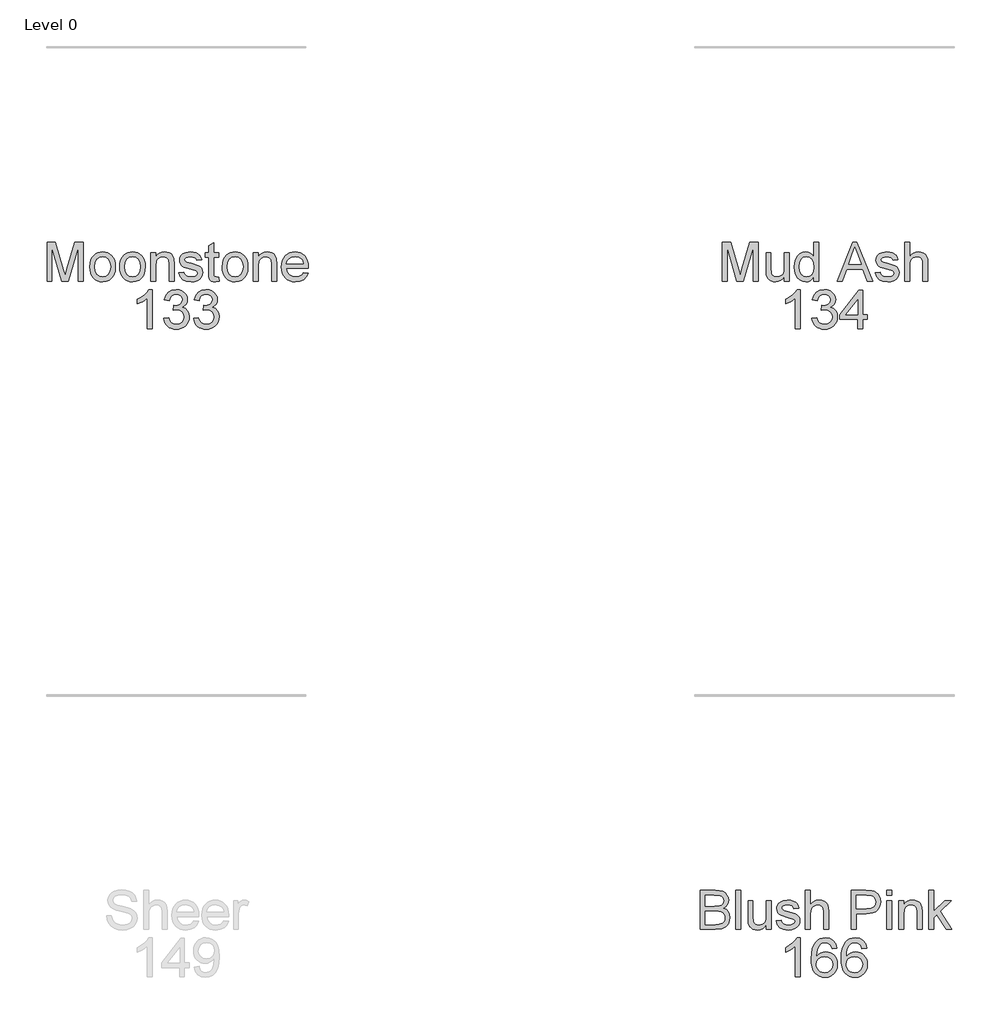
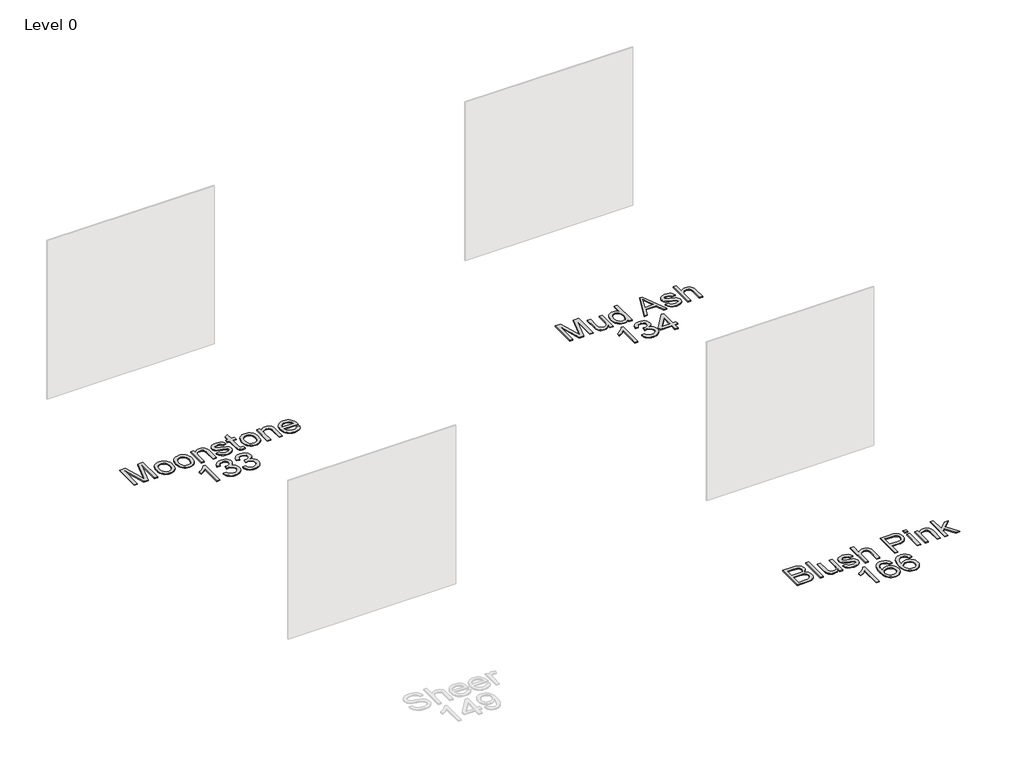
# One storey, part 5 of 15: 3 proxies.
"""IFC4 building model written with IfcOpenShell, lengths in millimetres."""

from ifc_helpers import new_model, si_unit, origin, origin_with_axes, place, context, project, spatial, polyline, outline, extrude, element, save

model = new_model("IFC4")

# Units and contexts
model_context = context("Model", 3, world=origin())
ifc_project = project(units=[si_unit("LENGTHUNIT", "METRE", prefix="MILLI")], contexts=[model_context])

# Site, building, storey
site = spatial("IfcSite", under=ifc_project)
building = spatial("IfcBuilding", under=site)
storey = spatial("IfcBuildingStorey", under=building, Name="Level 0", Elevation=0.0)

# Proxies
placement = place(None, origin())
element("IfcBuildingElementProxy", 1, Name="300mm Arial", ObjectType="300mm Arial", at=placement, inside=storey, context=model_context, shape_type="SweptSolid", body=[
    extrude(outline(polyline([(-10446.5881937, -12002.860494), (-10446.5881937, -11701.4915635), (-10381.7673861, -11701.4915635), (-10320.1103637, -11913.9066275), (-10307.6759523, -11958.2731962), (-10294.2114712, -11910.2278076), (-10233.5845184, -11701.4915635), (-10168.7637109, -11701.4915635), (-10168.7637109, -12002.860494), (-10206.4348272, -12002.860494), (-10206.4348272, -11739.1626798), (-10282.1449418, -12002.860494), (-10333.2069627, -12002.860494), (-10408.9170773, -11739.1626798), (-10408.9170773, -12002.860494), (-10446.5881937, -12002.860494)])), origin_with_axes(), (0.0, 0.0, 1.0), 10.0),
    extrude(outline(polyline([(-10116.965926, -11892.2015898), (-10114.9287794, -11863.5389839), (-10108.8173398, -11838.8403064), (-10098.631607, -11818.1055575), (-10084.3715812, -11801.334737), (-10070.0149863, -11790.6155754), (-10054.1684694, -11782.9590314), (-10036.8320304, -11778.3651049), (-10018.0056693, -11776.8337961), (-9997.2226358, -11778.698498), (-9978.4307636, -11784.2926036), (-9961.6300528, -11793.6161129), (-9946.8205032, -11806.669026), (-9934.7332804, -11823.0098843), (-9926.0995498, -11842.1972296), (-9920.9193115, -11864.2310619), (-9919.1925654, -11889.1113811), (-9922.2459859, -11927.1687735), (-9931.4062476, -11956.1394806), (-9946.406636, -11977.8353213), (-9966.9804365, -11994.0681143), (-9991.4169981, -12004.1940662), (-10018.0056693, -12007.5693835), (-10039.0922054, -12005.7115794), (-10058.0588215, -12000.1381672), (-10074.9055176, -11990.8491468), (-10089.6322937, -11977.8445183), (-10101.5907578, -11961.3450108), (-10110.1325179, -11941.5713536), (-10115.257574, -11918.5235466), (-10116.965926, -11892.2015898)]), holes=[polyline([(-10079.2948097, -11892.1280134), (-10074.935408, -11926.2214773), (-10061.8572031, -11950.5108861), (-10042.1755164, -11965.0514219), (-10018.0056693, -11969.8982672), (-9993.9461868, -11965.0238308), (-9974.3012882, -11950.4005215), (-9961.2230833, -11925.789216), (-9956.8636817, -11890.950791), (-9961.2506745, -11857.8506085), (-9974.4116528, -11833.8922936), (-9994.0841425, -11819.3517577), (-10018.0056693, -11814.5049125), (-10042.1755164, -11819.3333636), (-10061.8572031, -11833.8187172), (-10074.935408, -11858.0529436), (-10079.2948097, -11892.1280134)])]), origin_with_axes(), (0.0, 0.0, 1.0), 10.0),
    extrude(outline(polyline([(-9886.2303386, -11892.2015898), (-9884.193192, -11863.5389839), (-9878.0817524, -11838.8403064), (-9867.8960197, -11818.1055575), (-9853.6359938, -11801.334737), (-9839.279399, -11790.6155754), (-9823.432882, -11782.9590314), (-9806.096443, -11778.3651049), (-9787.2700819, -11776.8337961), (-9766.4870484, -11778.698498), (-9747.6951763, -11784.2926036), (-9730.8944654, -11793.6161129), (-9716.0849158, -11806.669026), (-9703.997693, -11823.0098843), (-9695.3639624, -11842.1972296), (-9690.1837241, -11864.2310619), (-9688.456978, -11889.1113811), (-9691.5103985, -11927.1687735), (-9700.6706602, -11956.1394806), (-9715.6710486, -11977.8353213), (-9736.2448492, -11994.0681143), (-9760.6814107, -12004.1940662), (-9787.2700819, -12007.5693835), (-9808.356618, -12005.7115794), (-9827.3232341, -12000.1381672), (-9844.1699302, -11990.8491468), (-9858.8967064, -11977.8445183), (-9870.8551705, -11961.3450108), (-9879.3969305, -11941.5713536), (-9884.5219866, -11918.5235466), (-9886.2303386, -11892.2015898)]), holes=[polyline([(-9848.5592223, -11892.1280134), (-9844.1998206, -11926.2214773), (-9831.1216157, -11950.5108861), (-9811.439929, -11965.0514219), (-9787.2700819, -11969.8982672), (-9763.2105994, -11965.0238308), (-9743.5657009, -11950.4005215), (-9730.4874959, -11925.789216), (-9726.1280943, -11890.950791), (-9730.5150871, -11857.8506085), (-9743.6760655, -11833.8922936), (-9763.3485552, -11819.3517577), (-9787.2700819, -11814.5049125), (-9811.439929, -11819.3333636), (-9831.1216157, -11833.8187172), (-9844.1998206, -11858.0529436), (-9848.5592223, -11892.1280134)])]), origin_with_axes(), (0.0, 0.0, 1.0), 10.0),
    extrude(outline(polyline([(-9646.0769721, -12002.860494), (-9646.0769721, -11781.5426857), (-9608.4058558, -11781.5426857), (-9608.4058558, -11812.4447733), (-9595.3184539, -11796.8649708), (-9579.6006956, -11785.7365404), (-9561.2525811, -11779.0594822), (-9540.2741103, -11776.8337961), (-9521.7052666, -11778.6272209), (-9504.6999214, -11784.0074951), (-9490.5180705, -11792.303234), (-9480.4197097, -11802.8430532), (-9469.1257325, -11830.5445674), (-9467.1391697, -11866.964885), (-9467.1391697, -12002.860494), (-9504.810286, -12002.860494), (-9504.810286, -11872.0416565), (-9509.1512935, -11838.7115477), (-9515.1569671, -11828.7879309), (-9524.4919727, -11821.0900002), (-9536.4573346, -11816.1511844), (-9550.354077, -11814.5049125), (-9572.4177997, -11818.2021265), (-9591.2257667, -11829.2937687), (-9598.7420557, -11838.3482643), (-9604.1108335, -11850.7228949), (-9608.4058558, -11885.4325611), (-9608.4058558, -12002.860494), (-9646.0769721, -12002.860494)])), origin_with_axes(), (0.0, 0.0, 1.0), 10.0),
    extrude(outline(polyline([(-9429.4680534, -11936.9360404), (-9391.7969371, -11932.2271509), (-9385.8556429, -11948.3403823), (-9374.3593305, -11960.1861825), (-9357.2344236, -11967.470246), (-9334.4073458, -11969.8982672), (-9311.8561795, -11967.6725811), (-9296.0004655, -11960.9955229), (-9286.6194747, -11951.3202265), (-9283.4924777, -11940.0998256), (-9286.6378688, -11930.4981055), (-9296.0740419, -11923.1772538), (-9334.8488042, -11912.4350996), (-9391.5762079, -11894.0042116), (-9405.9328027, -11884.7427824), (-9416.3346662, -11872.4831149), (-9422.6530394, -11858.0069584), (-9424.7591638, -11842.0960621), (-9423.0669067, -11827.5003439), (-9417.9901351, -11814.0266659), (-9409.9887017, -11802.2084568), (-9399.522459, -11792.5791455), (-9375.5733411, -11781.4323211), (-9343.1629373, -11776.8337961), (-9318.6436023, -11778.6824032), (-9297.3248407, -11784.2282242), (-9280.1815397, -11792.9286334), (-9268.1885867, -11804.2410048), (-9260.2423356, -11819.0022698), (-9255.2391405, -11838.0493601), (-9292.9102568, -11842.7582497), (-9297.6651316, -11830.9032524), (-9307.0737136, -11821.972917), (-9321.2279734, -11816.3719136), (-9340.2198814, -11814.5049125), (-9361.8513427, -11816.2891401), (-9376.2723169, -11821.6418232), (-9384.3841149, -11829.3673451), (-9387.0880475, -11838.2700893), (-9382.5998872, -11849.2329728), (-9368.546795, -11857.5471059), (-9336.099603, -11865.5669334), (-9280.8069391, -11883.2988455), (-9266.2020239, -11891.7785255), (-9255.1287759, -11903.3852025), (-9248.148215, -11918.1556646), (-9245.8213614, -11936.1267001), (-9248.5528852, -11954.7047408), (-9256.7474566, -11972.1791356), (-9270.092376, -11987.1795239), (-9288.2749436, -11998.3355454), (-9310.2374987, -12005.260924), (-9334.9223806, -12007.5693835), (-9372.9061966, -12003.1180114), (-9400.626105, -11989.763895), (-9419.1305693, -11967.654187), (-9429.4680534, -11936.9360404)])), origin_with_axes(), (0.0, 0.0, 1.0), 10.0),
    extrude(outline(polyline([(-9123.3902334, -11971.4433716), (-9118.6813439, -12003.96414), (-9146.8611047, -12007.5693835), (-9164.9425048, -12006.005885), (-9178.4253799, -12001.3153896), (-9187.9535236, -11994.0865084), (-9194.1707293, -11984.9078526), (-9197.5920318, -11969.1441091), (-9198.732466, -11942.1599648), (-9198.732466, -11819.213802), (-9226.9858032, -11819.213802), (-9226.9858032, -11781.5426857), (-9198.732466, -11781.5426857), (-9198.732466, -11727.758338), (-9161.0613497, -11705.6118419), (-9161.0613497, -11781.5426857), (-9123.3902334, -11781.5426857), (-9123.3902334, -11819.213802), (-9161.0613497, -11819.213802), (-9161.0613497, -11941.0563188), (-9159.0747869, -11960.4804881), (-9152.636852, -11967.3598814), (-9139.7977704, -11969.8982672), (-9123.3902334, -11971.4433716)])), origin_with_axes(), (0.0, 0.0, 1.0), 10.0),
    extrude(outline(polyline([(-9095.1368962, -11892.2015898), (-9093.0997496, -11863.5389839), (-9086.98831, -11838.8403064), (-9076.8025772, -11818.1055575), (-9062.5425514, -11801.334737), (-9048.1859565, -11790.6155754), (-9032.3394396, -11782.9590314), (-9015.0030006, -11778.3651049), (-8996.1766395, -11776.8337961), (-8975.393606, -11778.698498), (-8956.6017338, -11784.2926036), (-8939.801023, -11793.6161129), (-8924.9914734, -11806.669026), (-8912.9042506, -11823.0098843), (-8904.27052, -11842.1972296), (-8899.0902817, -11864.2310619), (-8897.3635356, -11889.1113811), (-8900.4169561, -11927.1687735), (-8909.5772178, -11956.1394806), (-8924.5776062, -11977.8353213), (-8945.1514067, -11994.0681143), (-8969.5879683, -12004.1940662), (-8996.1766395, -12007.5693835), (-9017.2631756, -12005.7115794), (-9036.2297917, -12000.1381672), (-9053.0764878, -11990.8491468), (-9067.8032639, -11977.8445183), (-9079.761728, -11961.3450108), (-9088.3034881, -11941.5713536), (-9093.4285442, -11918.5235466), (-9095.1368962, -11892.2015898)]), holes=[polyline([(-9057.4657799, -11892.1280134), (-9053.1063782, -11926.2214773), (-9040.0281733, -11950.5108861), (-9020.3464865, -11965.0514219), (-8996.1766395, -11969.8982672), (-8972.117157, -11965.0238308), (-8952.4722584, -11950.4005215), (-8939.3940535, -11925.789216), (-8935.0346519, -11890.950791), (-8939.4216447, -11857.8506085), (-8952.582623, -11833.8922936), (-8972.2551127, -11819.3517577), (-8996.1766395, -11814.5049125), (-9020.3464865, -11819.3333636), (-9040.0281733, -11833.8187172), (-9053.1063782, -11858.0529436), (-9057.4657799, -11892.1280134)])]), origin_with_axes(), (0.0, 0.0, 1.0), 10.0),
    extrude(outline(polyline([(-8854.9835297, -12002.860494), (-8854.9835297, -11781.5426857), (-8817.3124134, -11781.5426857), (-8817.3124134, -11812.4447733), (-8804.2250114, -11796.8649708), (-8788.5072532, -11785.7365404), (-8770.1591387, -11779.0594822), (-8749.1806679, -11776.8337961), (-8730.6118242, -11778.6272209), (-8713.606479, -11784.0074951), (-8699.4246281, -11792.303234), (-8689.3262673, -11802.8430532), (-8678.03229, -11830.5445674), (-8676.0457273, -11866.964885), (-8676.0457273, -12002.860494), (-8713.7168436, -12002.860494), (-8713.7168436, -11872.0416565), (-8718.0578511, -11838.7115477), (-8724.0635247, -11828.7879309), (-8733.3985303, -11821.0900002), (-8745.3638922, -11816.1511844), (-8759.2606346, -11814.5049125), (-8781.3243572, -11818.2021265), (-8800.1323242, -11829.2937687), (-8807.6486133, -11838.3482643), (-8813.0173911, -11850.7228949), (-8817.3124134, -11885.4325611), (-8817.3124134, -12002.860494), (-8854.9835297, -12002.860494)])), origin_with_axes(), (0.0, 0.0, 1.0), 10.0),
    extrude(outline(polyline([(-8469.296046, -11936.9360404), (-8432.3606937, -11941.64493), (-8445.6688248, -11969.4752029), (-8466.904813, -11990.2789297), (-8495.5904116, -12003.2467701), (-8531.247374, -12007.5693835), (-8554.6216762, -12005.7046817), (-8575.4483957, -12000.1105761), (-8593.7275323, -11990.7870668), (-8609.4590861, -11977.7341537), (-8622.1096282, -11961.3151204), (-8631.1457298, -11941.8932503), (-8636.5673907, -11919.4685435), (-8638.374611, -11894.0409998), (-8636.5489966, -11867.7512327), (-8631.0721534, -11844.5792656), (-8621.9440813, -11824.5250983), (-8609.1647805, -11807.5887309), (-8593.4746134, -11794.133447), (-8575.6139426, -11784.5225298), (-8555.5827679, -11778.7559796), (-8533.3810895, -11776.8337961), (-8511.8944818, -11778.751381), (-8492.4634146, -11784.5041357), (-8475.0878881, -11794.0920602), (-8459.7679023, -11807.5151545), (-8447.2622137, -11824.4147337), (-8438.329579, -11844.4321128), (-8432.9699982, -11867.5672917), (-8431.1834713, -11893.8202706), (-8431.4042005, -11903.9738137), (-8600.7034947, -11903.9738137), (-8594.1827863, -11932.1719686), (-8579.0352451, -11952.902119), (-8557.1738576, -11965.6492302), (-8530.51161, -11969.8982672), (-8510.4620412, -11967.9300985), (-8493.5762577, -11962.0255925), (-8479.8542592, -11951.8168672), (-8469.296046, -11936.9360404)]), holes=[polyline([(-8600.7034947, -11866.3026974), (-8468.8545876, -11866.3026974), (-8473.9497532, -11846.4002814), (-8483.9377494, -11832.1632482), (-8505.9003045, -11818.9194964), (-8533.5282423, -11814.5049125), (-8558.921297, -11818.0273826), (-8579.9181619, -11828.5947929), (-8594.5138801, -11845.0667092), (-8600.7034947, -11866.3026974)])]), origin_with_axes(), (0.0, 0.0, 1.0), 10.0),
    extrude(outline(polyline([(-9636.6591931, -12368.7849475), (-9674.3303094, -12368.7849475), (-9674.3303094, -12133.9290818), (-9710.0148629, -12159.3497277), (-9749.672542, -12178.3692268), (-9749.672542, -12142.7582497), (-9720.0856325, -12126.6634124), (-9694.4534545, -12107.5151545), (-9674.2475359, -12087.1528861), (-9660.9394048, -12067.4160171), (-9636.6591931, -12067.4160171), (-9636.6591931, -12368.7849475)])), origin_with_axes(), (0.0, 0.0, 1.0), 10.0),
    extrude(outline(polyline([(-9547.1902918, -12288.7338254), (-9509.5191755, -12284.0249358), (-9501.0854808, -12307.6981422), (-9488.7338428, -12323.6826149), (-9471.8572563, -12332.7876943), (-9449.8487159, -12335.8227207), (-9424.0233999, -12331.6472601), (-9404.0841957, -12319.1208782), (-9391.3370846, -12300.4324728), (-9387.0880475, -12277.7709419), (-9391.3002964, -12256.2590422), (-9403.9370429, -12238.8122386), (-9423.0669067, -12227.2515469), (-9446.7585072, -12223.397983), (-9473.1724344, -12227.5182614), (-9468.9785797, -12189.8471451), (-9462.9453149, -12190.2886035), (-9440.3757545, -12187.5846708), (-9420.1974271, -12179.4728728), (-9405.9603939, -12165.7508744), (-9401.2147162, -12146.2163404), (-9404.6544128, -12129.9467592), (-9414.9735028, -12116.7489926), (-9430.7188522, -12108.0025982), (-9450.4373271, -12105.0871334), (-9470.1925903, -12108.0301893), (-9486.3426098, -12116.8593572), (-9498.1332278, -12131.574637), (-9504.810286, -12152.1760288), (-9542.4814023, -12147.4671392), (-9531.3897601, -12113.6403898), (-9511.6528911, -12088.3852908), (-9484.6503527, -12072.6583355), (-9451.7617023, -12067.4160171), (-9428.0792989, -12070.0003881), (-9406.3282759, -12077.7535011), (-9387.9893584, -12089.9855775), (-9374.5432715, -12106.0068384), (-9366.2935178, -12124.4653175), (-9363.5435998, -12144.0090485), (-9366.155562, -12162.2192072), (-9373.9914485, -12178.7371088), (-9386.9408947, -12192.8085951), (-9404.8935361, -12203.6795081), (-9381.3123002, -12213.2076518), (-9363.8379054, -12229.4312477), (-9353.0221748, -12251.4673793), (-9349.4169312, -12278.4331295), (-9351.219553, -12297.5445992), (-9356.6274183, -12315.1477526), (-9365.6405272, -12331.2425899), (-9378.2588797, -12345.829111), (-9393.6317485, -12357.9324287), (-9410.9084067, -12366.5776555), (-9430.0888543, -12371.7647917), (-9451.1730911, -12373.4938371), (-9470.2293785, -12372.0177105), (-9487.5934086, -12367.589331), (-9503.2651816, -12360.2086985), (-9517.2446974, -12349.875813), (-9528.9663375, -12337.1976797), (-9537.8644833, -12322.781304), (-9543.9391347, -12306.6266859), (-9547.1902918, -12288.7338254)])), origin_with_axes(), (0.0, 0.0, 1.0), 10.0),
    extrude(outline(polyline([(-9316.4547045, -12288.7338254), (-9278.7835882, -12284.0249358), (-9270.3498934, -12307.6981422), (-9257.9982554, -12323.6826149), (-9241.1216689, -12332.7876943), (-9219.1131285, -12335.8227207), (-9193.2878125, -12331.6472601), (-9173.3486083, -12319.1208782), (-9160.6014972, -12300.4324728), (-9156.3524602, -12277.7709419), (-9160.564709, -12256.2590422), (-9173.2014555, -12238.8122386), (-9192.3313193, -12227.2515469), (-9216.0229198, -12223.397983), (-9242.436847, -12227.5182614), (-9238.2429923, -12189.8471451), (-9232.2097276, -12190.2886035), (-9209.6401672, -12187.5846708), (-9189.4618397, -12179.4728728), (-9175.2248065, -12165.7508744), (-9170.4791288, -12146.2163404), (-9173.9188254, -12129.9467592), (-9184.2379154, -12116.7489926), (-9199.9832648, -12108.0025982), (-9219.7017397, -12105.0871334), (-9239.4570029, -12108.0301893), (-9255.6070225, -12116.8593572), (-9267.3976404, -12131.574637), (-9274.0746986, -12152.1760288), (-9311.7458149, -12147.4671392), (-9300.6541728, -12113.6403898), (-9280.9173037, -12088.3852908), (-9253.9147653, -12072.6583355), (-9221.0261149, -12067.4160171), (-9197.3437115, -12070.0003881), (-9175.5926885, -12077.7535011), (-9157.2537711, -12089.9855775), (-9143.8076841, -12106.0068384), (-9135.5579304, -12124.4653175), (-9132.8080125, -12144.0090485), (-9135.4199746, -12162.2192072), (-9143.2558611, -12178.7371088), (-9156.2053074, -12192.8085951), (-9174.1579487, -12203.6795081), (-9150.5767128, -12213.2076518), (-9133.1023181, -12229.4312477), (-9122.2865874, -12251.4673793), (-9118.6813439, -12278.4331295), (-9120.4839656, -12297.5445992), (-9125.891831, -12315.1477526), (-9134.9049398, -12331.2425899), (-9147.5232923, -12345.829111), (-9162.8961612, -12357.9324287), (-9180.1728194, -12366.5776555), (-9199.3532669, -12371.7647917), (-9220.4375037, -12373.4938371), (-9239.4937911, -12372.0177105), (-9256.8578212, -12367.589331), (-9272.5295942, -12360.2086985), (-9286.5091101, -12349.875813), (-9298.2307501, -12337.1976797), (-9307.1288959, -12322.781304), (-9313.2035473, -12306.6266859), (-9316.4547045, -12288.7338254)])), origin_with_axes(), (0.0, 0.0, 1.0), 10.0),
])
element("IfcBuildingElementProxy", 2, Name="300mm Arial", ObjectType="300mm Arial", at=placement, inside=storey, context=model_context, shape_type="SweptSolid", body=[
    extrude(outline(polyline([(-5239.397054, -12002.860494), (-5239.397054, -11701.4915635), (-5174.5762464, -11701.4915635), (-5112.919224, -11913.9066275), (-5100.4848126, -11958.2731962), (-5087.0203316, -11910.2278076), (-5026.3933788, -11701.4915635), (-4961.5725712, -11701.4915635), (-4961.5725712, -12002.860494), (-4999.2436875, -12002.860494), (-4999.2436875, -11739.1626798), (-5074.9538021, -12002.860494), (-5126.0158231, -12002.860494), (-5201.7259377, -11739.1626798), (-5201.7259377, -12002.860494), (-5239.397054, -12002.860494)])), origin_with_axes(), (0.0, 0.0, 1.0), 10.0),
    extrude(outline(polyline([(-4759.0903211, -12002.860494), (-4759.0903211, -11964.8214957), (-4772.720349, -11983.5236966), (-4788.5944571, -11996.8824116), (-4806.7126453, -12004.8976405), (-4827.0749138, -12007.5693835), (-4845.4230283, -12005.6931853), (-4862.5019499, -12000.0645908), (-4876.8309536, -11991.6033049), (-4886.9293144, -11981.2290327), (-4898.1497152, -11953.4907302), (-4900.3570072, -11918.4683643), (-4900.3570072, -11781.5426857), (-4862.6858909, -11781.5426857), (-4862.6858909, -11900.7364521), (-4860.4050225, -11939.1433324), (-4854.9143838, -11951.9548229), (-4845.5058017, -11961.6944987), (-4832.8046758, -11967.8473251), (-4817.4364055, -11969.8982672), (-4801.1852184, -11967.8013398), (-4785.9824949, -11961.5105577), (-4773.4469159, -11951.605335), (-4765.1971622, -11938.6650858), (-4760.6170313, -11920.9423707), (-4759.0903211, -11896.6897502), (-4759.0903211, -11781.5426857), (-4721.4192048, -11781.5426857), (-4721.4192048, -12002.860494), (-4759.0903211, -12002.860494)])), origin_with_axes(), (0.0, 0.0, 1.0), 10.0),
    extrude(outline(polyline([(-4533.0636232, -12002.860494), (-4533.0636232, -11967.3230932), (-4544.3346079, -11984.9308452), (-4557.9876284, -11997.507811), (-4574.0226849, -12005.0539904), (-4592.4397772, -12007.5693835), (-4616.7935653, -12003.9273518), (-4639.0872142, -11993.0012565), (-4657.9595606, -11975.5544529), (-4672.049441, -11952.350296), (-4680.8234266, -11924.3268851), (-4683.7480885, -11892.422319), (-4681.0533528, -11860.9132261), (-4672.969146, -11832.4575538), (-4659.504665, -11808.6739828), (-4640.6691068, -11791.181194), (-4617.8880143, -11780.4206456), (-4592.58693, -11776.8337961), (-4574.1560421, -11779.3997731), (-4557.8588697, -11787.0977038), (-4544.0449008, -11798.8975188), (-4533.0636232, -11813.7691485), (-4533.0636232, -11701.4915635), (-4495.3925069, -11701.4915635), (-4495.3925069, -12002.860494), (-4533.0636232, -12002.860494)]), holes=[polyline([(-4646.0769721, -11892.2751662), (-4641.8279351, -11926.350236), (-4629.080824, -11950.5844625), (-4610.5579655, -11965.069816), (-4588.9816865, -11969.8982672), (-4567.4146045, -11965.2905452), (-4549.3607956, -11951.4673793), (-4537.1379163, -11928.1712519), (-4533.0636232, -11895.1446458), (-4537.2114927, -11859.037028), (-4549.6551012, -11834.0026582), (-4568.1687626, -11819.3793489), (-4590.5267909, -11814.5049125), (-4612.3237991, -11819.1862108), (-4630.18447, -11833.230106), (-4642.1038466, -11857.3539678), (-4646.0769721, -11892.2751662)])]), origin_with_axes(), (0.0, 0.0, 1.0), 10.0),
    extrude(outline(polyline([(-4351.5506468, -12002.860494), (-4231.2532344, -11701.4915635), (-4199.1739244, -11701.4915635), (-4078.876512, -12002.860494), (-4118.6813439, -12002.860494), (-4153.188675, -11908.6827032), (-4277.3120602, -11908.6827032), (-4311.7458149, -12002.860494), (-4351.5506468, -12002.860494)]), holes=[polyline([(-4263.4796972, -11871.0115869), (-4166.9474616, -11871.0115869), (-4194.0971529, -11796.9201531), (-4215.2135794, -11739.1626798), (-4233.9755611, -11790.44543), (-4263.4796972, -11871.0115869)])]), origin_with_axes(), (0.0, 0.0, 1.0), 10.0),
    extrude(outline(polyline([(-4057.4657799, -11936.9360404), (-4019.7946636, -11932.2271509), (-4013.8533693, -11948.3403823), (-4002.357057, -11960.1861825), (-3985.2321501, -11967.470246), (-3962.4050723, -11969.8982672), (-3939.853906, -11967.6725811), (-3923.998192, -11960.9955229), (-3914.6172011, -11951.3202265), (-3911.4902042, -11940.0998256), (-3914.6355952, -11930.4981055), (-3924.0717684, -11923.1772538), (-3962.8465307, -11912.4350996), (-4019.5739344, -11894.0042116), (-4033.9305292, -11884.7427824), (-4044.3323926, -11872.4831149), (-4050.6507659, -11858.0069584), (-4052.7568903, -11842.0960621), (-4051.0646331, -11827.5003439), (-4045.9878616, -11814.0266659), (-4037.9864282, -11802.2084568), (-4027.5201855, -11792.5791455), (-4003.5710676, -11781.4323211), (-3971.1606638, -11776.8337961), (-3946.6413288, -11778.6824032), (-3925.3225672, -11784.2282242), (-3908.1792662, -11792.9286334), (-3896.1863132, -11804.2410048), (-3888.2400621, -11819.0022698), (-3883.2368669, -11838.0493601), (-3920.9079833, -11842.7582497), (-3925.662858, -11830.9032524), (-3935.0714401, -11821.972917), (-3949.2256998, -11816.3719136), (-3968.2176078, -11814.5049125), (-3989.8490691, -11816.2891401), (-4004.2700434, -11821.6418232), (-4012.3818414, -11829.3673451), (-4015.085774, -11838.2700893), (-4010.5976137, -11849.2329728), (-3996.5445215, -11857.5471059), (-3964.0973295, -11865.5669334), (-3908.8046656, -11883.2988455), (-3894.1997504, -11891.7785255), (-3883.1265023, -11903.3852025), (-3876.1459415, -11918.1556646), (-3873.8190879, -11936.1267001), (-3876.5506117, -11954.7047408), (-3884.7451831, -11972.1791356), (-3898.0901025, -11987.1795239), (-3916.2726701, -11998.3355454), (-3938.2352252, -12005.260924), (-3962.9201071, -12007.5693835), (-4000.9039231, -12003.1180114), (-4028.6238314, -11989.763895), (-4047.1282958, -11967.654187), (-4057.4657799, -11936.9360404)])), origin_with_axes(), (0.0, 0.0, 1.0), 10.0),
    extrude(outline(polyline([(-3831.439082, -12002.860494), (-3831.439082, -11701.4915635), (-3793.7679657, -11701.4915635), (-3793.7679657, -11812.2976205), (-3779.9310042, -11796.7821973), (-3764.3925884, -11785.6997522), (-3747.1527184, -11779.0502852), (-3728.2113942, -11776.8337961), (-3705.4578928, -11779.2526203), (-3685.9049647, -11786.5090926), (-3670.5091032, -11798.0329961), (-3660.2268015, -11813.2541137), (-3654.43266, -11834.1682051), (-3652.5012796, -11862.7710302), (-3652.5012796, -12002.860494), (-3690.1723959, -12002.860494), (-3690.1723959, -11866.6705794), (-3693.1706341, -11843.0893435), (-3702.1653489, -11826.9393239), (-3716.6598995, -11817.6135153), (-3736.1576453, -11814.5049125), (-3752.0777386, -11816.6018398), (-3767.0229447, -11822.8926219), (-3779.4021738, -11832.7702535), (-3787.6243364, -11845.6277292), (-3792.2320584, -11862.7158479), (-3793.7679657, -11885.2854083), (-3793.7679657, -12002.860494), (-3831.439082, -12002.860494)])), origin_with_axes(), (0.0, 0.0, 1.0), 10.0),
    extrude(outline(polyline([(-4636.6591931, -12368.7849475), (-4674.3303094, -12368.7849475), (-4674.3303094, -12133.9290818), (-4710.0148629, -12159.3497277), (-4749.672542, -12178.3692268), (-4749.672542, -12142.7582497), (-4720.0856325, -12126.6634124), (-4694.4534545, -12107.5151545), (-4674.2475359, -12087.1528861), (-4660.9394048, -12067.4160171), (-4636.6591931, -12067.4160171), (-4636.6591931, -12368.7849475)])), origin_with_axes(), (0.0, 0.0, 1.0), 10.0),
    extrude(outline(polyline([(-4547.1902918, -12288.7338254), (-4509.5191755, -12284.0249358), (-4501.0854808, -12307.6981422), (-4488.7338428, -12323.6826149), (-4471.8572563, -12332.7876943), (-4449.8487159, -12335.8227207), (-4424.0233999, -12331.6472601), (-4404.0841957, -12319.1208782), (-4391.3370846, -12300.4324728), (-4387.0880475, -12277.7709419), (-4391.3002964, -12256.2590422), (-4403.9370429, -12238.8122386), (-4423.0669067, -12227.2515469), (-4446.7585072, -12223.397983), (-4473.1724344, -12227.5182614), (-4468.9785797, -12189.8471451), (-4462.9453149, -12190.2886035), (-4440.3757545, -12187.5846708), (-4420.1974271, -12179.4728728), (-4405.9603939, -12165.7508744), (-4401.2147162, -12146.2163404), (-4404.6544128, -12129.9467592), (-4414.9735028, -12116.7489926), (-4430.7188522, -12108.0025982), (-4450.4373271, -12105.0871334), (-4470.1925903, -12108.0301893), (-4486.3426098, -12116.8593572), (-4498.1332278, -12131.574637), (-4504.810286, -12152.1760288), (-4542.4814023, -12147.4671392), (-4531.3897601, -12113.6403898), (-4511.6528911, -12088.3852908), (-4484.6503527, -12072.6583355), (-4451.7617023, -12067.4160171), (-4428.0792989, -12070.0003881), (-4406.3282759, -12077.7535011), (-4387.9893584, -12089.9855775), (-4374.5432715, -12106.0068384), (-4366.2935178, -12124.4653175), (-4363.5435998, -12144.0090485), (-4366.155562, -12162.2192072), (-4373.9914485, -12178.7371088), (-4386.9408947, -12192.8085951), (-4404.8935361, -12203.6795081), (-4381.3123002, -12213.2076518), (-4363.8379054, -12229.4312477), (-4353.0221748, -12251.4673793), (-4349.4169312, -12278.4331295), (-4351.219553, -12297.5445992), (-4356.6274183, -12315.1477526), (-4365.6405272, -12331.2425899), (-4378.2588797, -12345.829111), (-4393.6317485, -12357.9324287), (-4410.9084067, -12366.5776555), (-4430.0888543, -12371.7647917), (-4451.1730911, -12373.4938371), (-4470.2293785, -12372.0177105), (-4487.5934086, -12367.589331), (-4503.2651816, -12360.2086985), (-4517.2446974, -12349.875813), (-4528.9663375, -12337.1976797), (-4537.8644833, -12322.781304), (-4543.9391347, -12306.6266859), (-4547.1902918, -12288.7338254)])), origin_with_axes(), (0.0, 0.0, 1.0), 10.0),
    extrude(outline(polyline([(-4194.0235765, -12368.7849475), (-4194.0235765, -12298.1516044), (-4330.5813731, -12298.1516044), (-4330.5813731, -12260.4804881), (-4184.6057974, -12072.1249066), (-4156.3524602, -12072.1249066), (-4156.3524602, -12260.4804881), (-4118.6813439, -12260.4804881), (-4118.6813439, -12298.1516044), (-4156.3524602, -12298.1516044), (-4156.3524602, -12368.7849475), (-4194.0235765, -12368.7849475)]), holes=[polyline([(-4194.0235765, -12260.4804881), (-4194.0235765, -12144.0826249), (-4284.2282417, -12260.4804881), (-4194.0235765, -12260.4804881)])]), origin_with_axes(), (0.0, 0.0, 1.0), 10.0),
])
element("IfcBuildingElementProxy", 3, Name="300mm Arial", ObjectType="300mm Arial", at=placement, inside=storey, context=model_context, shape_type="SweptSolid", body=[
    extrude(outline(polyline([(-5406.5626326, -17002.860494), (-5406.5626326, -16701.4915635), (-5291.5627209, -16701.4915635), (-5259.9340663, -16703.7080526), (-5235.2399874, -16710.3575196), (-5216.3124588, -16721.6055116), (-5201.9834551, -16737.6175755), (-5192.9611491, -16756.4531336), (-5189.9537138, -16776.1716086), (-5192.4829025, -16794.317388), (-5200.0704687, -16811.3779155), (-5212.7715946, -16826.3047274), (-5230.6414625, -16838.0493601), (-5209.2951097, -16849.1961846), (-5193.5221692, -16866.1555446), (-5183.7824933, -16887.8054), (-5180.5359347, -16913.0237108), (-5182.7524238, -16934.0389697), (-5189.4018908, -16953.5275184), (-5199.3255076, -16970.1006023), (-5211.3644459, -16982.3694669), (-5226.1073169, -16991.253817), (-5244.1427317, -16997.6733578), (-5292.4456377, -17002.860494), (-5406.5626326, -17002.860494)]), holes=[polyline([(-5368.8915163, -16823.9226915), (-5300.0975832, -16823.9226915), (-5259.9248693, -16820.68533), (-5245.86258, -16815.1027207), (-5235.7550222, -16806.7426024), (-5229.6573781, -16795.7337336), (-5227.6248301, -16782.2048733), (-5229.5194224, -16769.071486), (-5235.2031992, -16757.630356), (-5244.4186432, -16748.7000206), (-5256.9082369, -16743.0990172), (-5305.3215075, -16739.1626798), (-5368.8915163, -16739.1626798), (-5368.8915163, -16823.9226915)]), polyline([(-5368.8915163, -16965.1893777), (-5291.6362973, -16965.1893777), (-5263.6772656, -16963.7178497), (-5240.0224534, -16955.5140812), (-5224.3506804, -16938.7754504), (-5219.7429584, -16926.9480443), (-5218.207051, -16913.3915928), (-5220.0096728, -16897.6462434), (-5225.4175381, -16884.1081859), (-5234.8629084, -16873.5223815), (-5248.7780448, -16866.6337912), (-5268.4873227, -16862.8538037), (-5295.3151172, -16861.5938078), (-5368.8915163, -16861.5938078), (-5368.8915163, -16965.1893777)])]), origin_with_axes(), (0.0, 0.0, 1.0), 10.0),
    extrude(outline(polyline([(-5133.4470394, -17002.860494), (-5133.4470394, -16701.4915635), (-5095.775923, -16701.4915635), (-5095.775923, -17002.860494), (-5133.4470394, -17002.860494)])), origin_with_axes(), (0.0, 0.0, 1.0), 10.0),
    extrude(outline(polyline([(-4898.0025624, -17002.860494), (-4898.0025624, -16964.8214957), (-4911.6325904, -16983.5236966), (-4927.5066985, -16996.8824116), (-4945.6248867, -17004.8976405), (-4965.9871552, -17007.5693835), (-4984.3352697, -17005.6931853), (-5001.4141913, -17000.0645908), (-5015.743195, -16991.6033049), (-5025.8415558, -16981.2290327), (-5037.0619566, -16953.4907302), (-5039.2692486, -16918.4683643), (-5039.2692486, -16781.5426857), (-5001.5981323, -16781.5426857), (-5001.5981323, -16900.7364521), (-4999.3172639, -16939.1433324), (-4993.8266251, -16951.9548229), (-4984.4180431, -16961.6944987), (-4971.7169172, -16967.8473251), (-4956.3486469, -16969.8982672), (-4940.0974597, -16967.8013398), (-4924.8947363, -16961.5105577), (-4912.3591573, -16951.605335), (-4904.1094036, -16938.6650858), (-4899.5292727, -16920.9423707), (-4898.0025624, -16896.6897502), (-4898.0025624, -16781.5426857), (-4860.3314461, -16781.5426857), (-4860.3314461, -17002.860494), (-4898.0025624, -17002.860494)])), origin_with_axes(), (0.0, 0.0, 1.0), 10.0),
    extrude(outline(polyline([(-4822.6603298, -16936.9360404), (-4784.9892135, -16932.2271509), (-4779.0479193, -16948.3403823), (-4767.551607, -16960.1861825), (-4750.4267001, -16967.470246), (-4727.5996223, -16969.8982672), (-4705.048456, -16967.6725811), (-4689.192742, -16960.9955229), (-4679.8117511, -16951.3202265), (-4676.6847541, -16940.0998256), (-4679.8301452, -16930.4981055), (-4689.2663184, -16923.1772538), (-4728.0410807, -16912.4350996), (-4784.7684843, -16894.0042116), (-4799.1250792, -16884.7427824), (-4809.5269426, -16872.4831149), (-4815.8453159, -16858.0069584), (-4817.9514403, -16842.0960621), (-4816.2591831, -16827.5003439), (-4811.1824116, -16814.0266659), (-4803.1809782, -16802.2084568), (-4792.7147354, -16792.5791455), (-4768.7656175, -16781.4323211), (-4736.3552138, -16776.8337961), (-4711.8358788, -16778.6824032), (-4690.5171172, -16784.2282242), (-4673.3738162, -16792.9286334), (-4661.3808631, -16804.2410048), (-4653.434612, -16819.0022698), (-4648.4314169, -16838.0493601), (-4686.1025332, -16842.7582497), (-4690.857408, -16830.9032524), (-4700.26599, -16821.972917), (-4714.4202498, -16816.3719136), (-4733.4121578, -16814.5049125), (-4755.0436191, -16816.2891401), (-4769.4645933, -16821.6418232), (-4777.5763913, -16829.3673451), (-4780.280324, -16838.2700893), (-4775.7921636, -16849.2329728), (-4761.7390714, -16857.5471059), (-4729.2918795, -16865.5669334), (-4673.9992156, -16883.2988455), (-4659.3943004, -16891.7785255), (-4648.3210523, -16903.3852025), (-4641.3404915, -16918.1556646), (-4639.0136378, -16936.1267001), (-4641.7451617, -16954.7047408), (-4649.9397331, -16972.1791356), (-4663.2846525, -16987.1795239), (-4681.4672201, -16998.3355454), (-4703.4297752, -17005.260924), (-4728.1146571, -17007.5693835), (-4766.0984731, -17003.1180114), (-4793.8183814, -16989.763895), (-4812.3228458, -16967.654187), (-4822.6603298, -16936.9360404)])), origin_with_axes(), (0.0, 0.0, 1.0), 10.0),
    extrude(outline(polyline([(-4596.633632, -17002.860494), (-4596.633632, -16701.4915635), (-4558.9625157, -16701.4915635), (-4558.9625157, -16812.2976205), (-4545.1255541, -16796.7821973), (-4529.5871384, -16785.6997522), (-4512.3472684, -16779.0502852), (-4493.4059441, -16776.8337961), (-4470.6524427, -16779.2526203), (-4451.0995147, -16786.5090926), (-4435.7036532, -16798.0329961), (-4425.4213514, -16813.2541137), (-4419.62721, -16834.1682051), (-4417.6958295, -16862.7710302), (-4417.6958295, -17002.860494), (-4455.3669458, -17002.860494), (-4455.3669458, -16866.6705794), (-4458.3651841, -16843.0893435), (-4467.3598989, -16826.9393239), (-4481.8544495, -16817.6135153), (-4501.3521952, -16814.5049125), (-4517.2722886, -16816.6018398), (-4532.2174946, -16822.8926219), (-4544.5967238, -16832.7702535), (-4552.8188864, -16845.6277292), (-4557.4266084, -16862.7158479), (-4558.9625157, -16885.2854083), (-4558.9625157, -17002.860494), (-4596.633632, -17002.860494)])), origin_with_axes(), (0.0, 0.0, 1.0), 10.0),
    extrude(outline(polyline([(-4243.4669166, -17002.860494), (-4243.4669166, -16701.4915635), (-4131.7779429, -16701.4915635), (-4086.7491867, -16704.3610431), (-4066.6720268, -16709.7229232), (-4050.1449282, -16718.4509235), (-4036.836797, -16730.9405172), (-4026.4165395, -16747.5871775), (-4019.684299, -16767.222879), (-4017.4402188, -16788.6795964), (-4018.9554328, -16807.1794622), (-4023.5010747, -16824.198603), (-4031.0771445, -16839.7370188), (-4041.6836423, -16853.7947095), (-4056.2448715, -16865.4473717), (-4075.6851357, -16873.7707019), (-4100.0044348, -16878.7647), (-4129.2027689, -16880.429366), (-4205.7958003, -16880.429366), (-4205.7958003, -17002.860494), (-4243.4669166, -17002.860494)]), holes=[polyline([(-4205.7958003, -16842.7582497), (-4126.995477, -16842.7582497), (-4093.5917918, -16839.3001589), (-4071.5188721, -16828.9258867), (-4059.2132193, -16812.2792264), (-4055.1113351, -16790.0039716), (-4057.5301592, -16773.0813998), (-4064.7866316, -16758.8075784), (-4075.9794413, -16748.0654241), (-4090.2072774, -16741.7378538), (-4127.8783937, -16739.1626798), (-4205.7958003, -16739.1626798), (-4205.7958003, -16842.7582497)])]), origin_with_axes(), (0.0, 0.0, 1.0), 10.0),
    extrude(outline(polyline([(-3970.3513234, -16739.1626798), (-3970.3513234, -16701.4915635), (-3932.6802071, -16701.4915635), (-3932.6802071, -16739.1626798), (-3970.3513234, -16739.1626798)])), origin_with_axes(), (0.0, 0.0, 1.0), 10.0),
    extrude(outline(polyline([(-3970.3513234, -17002.860494), (-3970.3513234, -16781.5426857), (-3932.6802071, -16781.5426857), (-3932.6802071, -17002.860494), (-3970.3513234, -17002.860494)])), origin_with_axes(), (0.0, 0.0, 1.0), 10.0),
    extrude(outline(polyline([(-3876.1735326, -17002.860494), (-3876.1735326, -16781.5426857), (-3838.5024163, -16781.5426857), (-3838.5024163, -16812.4447733), (-3825.4150144, -16796.8649708), (-3809.6972561, -16785.7365404), (-3791.3491416, -16779.0594822), (-3770.3706708, -16776.8337961), (-3751.8018271, -16778.6272209), (-3734.7964819, -16784.0074951), (-3720.614631, -16792.303234), (-3710.5162702, -16802.8430532), (-3699.222293, -16830.5445674), (-3697.2357302, -16866.964885), (-3697.2357302, -17002.860494), (-3734.9068465, -17002.860494), (-3734.9068465, -16872.0416565), (-3739.247854, -16838.7115477), (-3745.2535276, -16828.7879309), (-3754.5885332, -16821.0900002), (-3766.5538951, -16816.1511844), (-3780.4506375, -16814.5049125), (-3802.5143602, -16818.2021265), (-3821.3223272, -16829.2937687), (-3828.8386162, -16838.3482643), (-3834.207394, -16850.7228949), (-3838.5024163, -16885.4325611), (-3838.5024163, -17002.860494), (-3876.1735326, -17002.860494)])), origin_with_axes(), (0.0, 0.0, 1.0), 10.0),
    extrude(outline(polyline([(-3645.4379453, -17002.860494), (-3645.4379453, -16701.4915635), (-3607.766829, -16701.4915635), (-3607.766829, -16863.4332178), (-3523.3011229, -16781.5426857), (-3471.2090323, -16781.5426857), (-3556.704808, -16864.4632874), (-3466.5001428, -17002.860494), (-3510.4988294, -17002.860494), (-3583.7073465, -16890.6564855), (-3607.766829, -16913.9802039), (-3607.766829, -17002.860494), (-3645.4379453, -17002.860494)])), origin_with_axes(), (0.0, 0.0, 1.0), 10.0),
    extrude(outline(polyline([(-4636.6591931, -17368.7849475), (-4674.3303094, -17368.7849475), (-4674.3303094, -17133.9290818), (-4710.0148629, -17159.3497277), (-4749.672542, -17178.3692268), (-4749.672542, -17142.7582497), (-4720.0856325, -17126.6634124), (-4694.4534545, -17107.5151545), (-4674.2475359, -17087.1528861), (-4660.9394048, -17067.4160171), (-4636.6591931, -17067.4160171), (-4636.6591931, -17368.7849475)])), origin_with_axes(), (0.0, 0.0, 1.0), 10.0),
    extrude(outline(polyline([(-4354.1258208, -17147.4671392), (-4391.7969371, -17152.1760288), (-4397.86699, -17133.5060175), (-4406.0707585, -17120.7589064), (-4423.1588772, -17109.0050766), (-4443.8154512, -17105.0871334), (-4461.3266342, -17107.3680017), (-4477.8077476, -17114.2106069), (-4491.9620073, -17128.622384), (-4503.522699, -17148.4604206), (-4511.3309944, -17176.5206198), (-4514.2280651, -17215.5988847), (-4499.1173121, -17197.9681401), (-4481.0083209, -17185.5429257), (-4460.9127669, -17178.1760888), (-4439.8423256, -17175.7204764), (-4421.7425315, -17177.3989381), (-4405.0406889, -17182.4343229), (-4389.7367979, -17190.8266309), (-4375.8308585, -17202.5758621), (-4364.2747653, -17216.9830407), (-4356.020413, -17233.349191), (-4351.0678017, -17251.6743129), (-4349.4169312, -17271.9584064), (-4352.5255341, -17298.9333537), (-4361.8513427, -17323.9401323), (-4376.6218048, -17345.1485293), (-4396.0643682, -17360.7283318), (-4419.2961162, -17370.3024607), (-4445.434132, -17373.4938371), (-4467.8910285, -17371.3785156), (-4488.1728228, -17365.0325512), (-4506.2795147, -17354.4559438), (-4522.2111044, -17339.6486935), (-4535.1996381, -17319.9854009), (-4544.4771621, -17294.8406665), (-4550.0436766, -17264.2144904), (-4551.8991814, -17228.1068726), (-4549.8390422, -17187.6260575), (-4543.6586247, -17153.0773396), (-4533.3579288, -17124.4607189), (-4518.9369546, -17101.7761954), (-4503.3065683, -17086.7436174), (-4485.1837816, -17076.0060617), (-4464.5685943, -17069.5635282), (-4441.4610064, -17067.4160171), (-4408.4068092, -17072.7319119), (-4381.9376996, -17088.6795964), (-4363.3964471, -17114.0082718), (-4354.1258208, -17147.4671392)]), holes=[polyline([(-4514.2280651, -17271.3697952), (-4512.0483643, -17288.0624407), (-4505.5092618, -17304.0009282), (-4495.3557187, -17317.7045325), (-4482.3326961, -17327.6925287), (-4466.6149378, -17333.7901727), (-4448.3771879, -17335.8227207), (-4423.5175621, -17331.6104719), (-4403.9738311, -17318.9737254), (-4391.3094934, -17299.1080976), (-4387.0880475, -17273.2092052), (-4391.2543111, -17248.3495793), (-4403.7531019, -17229.3944595), (-4423.6279267, -17217.3923095), (-4449.9222923, -17213.3915928), (-4474.7451299, -17217.3923095), (-4495.5028715, -17229.3944595), (-4509.5467667, -17247.8897269), (-4514.2280651, -17271.3697952)])]), origin_with_axes(), (0.0, 0.0, 1.0), 10.0),
    extrude(outline(polyline([(-4123.3902334, -17147.4671392), (-4161.0613497, -17152.1760288), (-4167.1314026, -17133.5060175), (-4175.3351711, -17120.7589064), (-4192.4232898, -17109.0050766), (-4213.0798638, -17105.0871334), (-4230.5910468, -17107.3680017), (-4247.0721602, -17114.2106069), (-4261.2264199, -17128.622384), (-4272.7871116, -17148.4604206), (-4280.595407, -17176.5206198), (-4283.4924777, -17215.5988847), (-4268.3817247, -17197.9681401), (-4250.2727335, -17185.5429257), (-4230.1771795, -17178.1760888), (-4209.1067383, -17175.7204764), (-4191.0069441, -17177.3989381), (-4174.3051015, -17182.4343229), (-4159.0012105, -17190.8266309), (-4145.0952711, -17202.5758621), (-4133.5391779, -17216.9830407), (-4125.2848257, -17233.349191), (-4120.3322143, -17251.6743129), (-4118.6813439, -17271.9584064), (-4121.7899467, -17298.9333537), (-4131.1157553, -17323.9401323), (-4145.8862174, -17345.1485293), (-4165.3287808, -17360.7283318), (-4188.5605288, -17370.3024607), (-4214.6985446, -17373.4938371), (-4237.1554411, -17371.3785156), (-4257.4372354, -17365.0325512), (-4275.5439273, -17354.4559438), (-4291.475517, -17339.6486935), (-4304.4640507, -17319.9854009), (-4313.7415748, -17294.8406665), (-4319.3080892, -17264.2144904), (-4321.163594, -17228.1068726), (-4319.1034548, -17187.6260575), (-4312.9230373, -17153.0773396), (-4302.6223414, -17124.4607189), (-4288.2013672, -17101.7761954), (-4272.570981, -17086.7436174), (-4254.4481942, -17076.0060617), (-4233.8330069, -17069.5635282), (-4210.7254191, -17067.4160171), (-4177.6712218, -17072.7319119), (-4151.2021122, -17088.6795964), (-4132.6608597, -17114.0082718), (-4123.3902334, -17147.4671392)]), holes=[polyline([(-4283.4924777, -17271.3697952), (-4281.3127769, -17288.0624407), (-4274.7736744, -17304.0009282), (-4264.6201313, -17317.7045325), (-4251.5971087, -17327.6925287), (-4235.8793505, -17333.7901727), (-4217.6416006, -17335.8227207), (-4192.7819747, -17331.6104719), (-4173.2382437, -17318.9737254), (-4160.5739061, -17299.1080976), (-4156.3524602, -17273.2092052), (-4160.5187238, -17248.3495793), (-4173.0175145, -17229.3944595), (-4192.8923393, -17217.3923095), (-4219.1867049, -17213.3915928), (-4244.0095426, -17217.3923095), (-4264.7672841, -17229.3944595), (-4278.8111793, -17247.8897269), (-4283.4924777, -17271.3697952)])]), origin_with_axes(), (0.0, 0.0, 1.0), 10.0),
])

save(model, "model.ifc")
